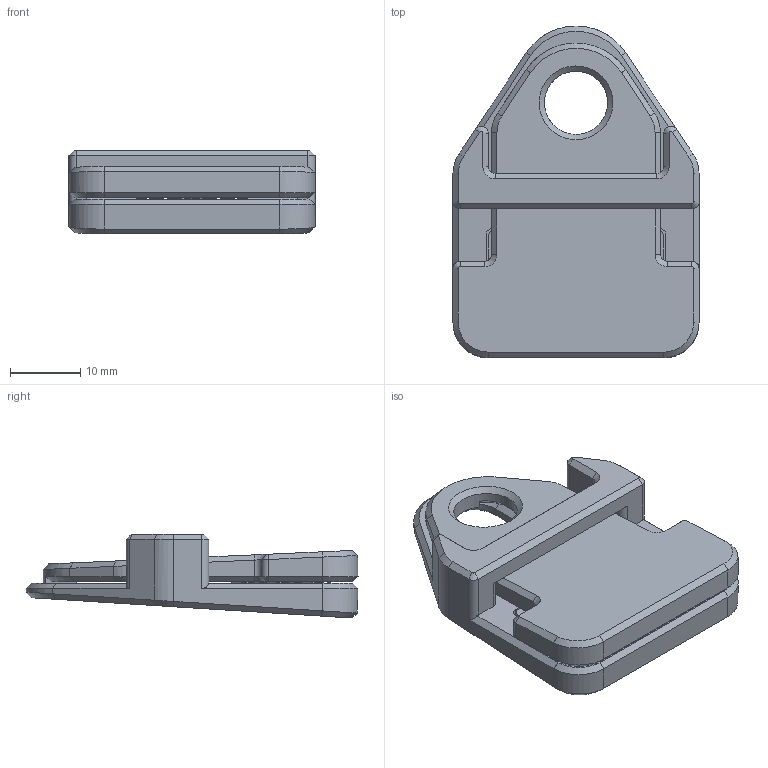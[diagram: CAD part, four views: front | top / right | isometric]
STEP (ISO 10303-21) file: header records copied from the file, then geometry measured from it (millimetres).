
FILE_DESCRIPTION(/* description */ (''),/* implementation_level */ '2;1');
FILE_NAME(/* name */ 'Carpet Corner Clip -Xtreme.step',/* time_stamp */ '2026-08-14T15:52:35+02:00',/* author */ (''),/* organization */ (''),/* preprocessor_version */ 'ST-DEVELOPER v20.1',/* originating_system */ 'Autodesk Translation Framework v15.8.0.0',/* authorisation */ '');
FILE_SCHEMA (('AUTOMOTIVE_DESIGN { 1 0 10303 214 3 1 1 }'));
Length unit declared in the file: millimetre
Products named in the file (1): Carpet Corner Clip -Xtreme
Bounding box: 35 x 47.23 x 11.95 mm (x, y, z)
Volume: 9432.3 mm3; surface area: 7960.8 mm2
Topology: 3 solids, 3 shells, 380 faces, 950 edges, 599 vertices
Faces by surface type: plane 268, bspline 49, cylinder 41, cone 22
Full cylindrical faces by diameter (mm): 9 x1
Entity records: 11969 total; most frequent: CARTESIAN_POINT 3158, ORIENTED_EDGE 1900, DIRECTION 1602, EDGE_CURVE 950, LINE 748, VECTOR 748, VERTEX_POINT 599, AXIS2_PLACEMENT_3D 427
